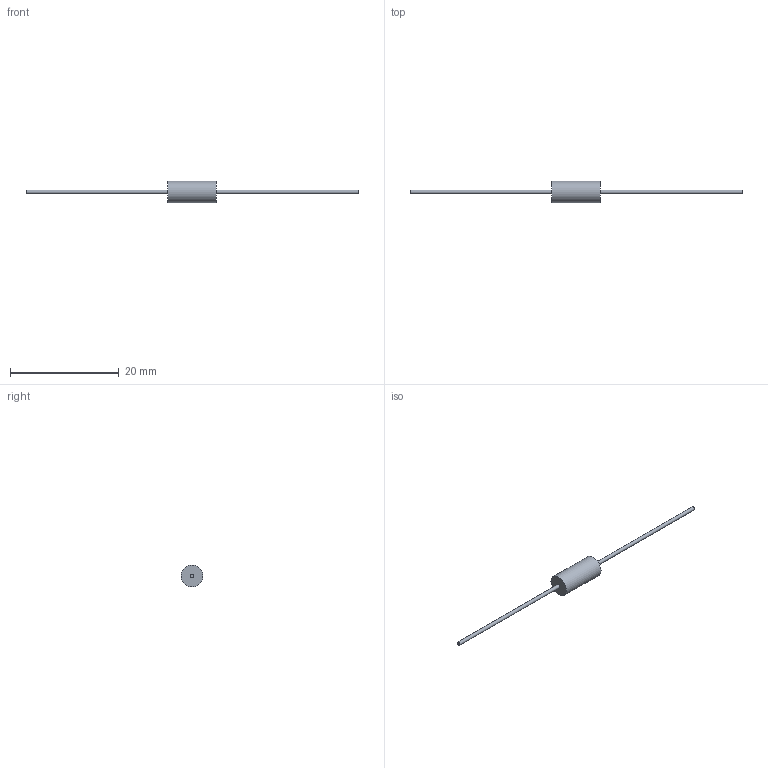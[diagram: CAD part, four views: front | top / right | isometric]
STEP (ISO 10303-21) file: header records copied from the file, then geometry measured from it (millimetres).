
FILE_DESCRIPTION(/* description */ (''),/* implementation_level */ '2;1');
FILE_NAME(/* name */ 'C:\Users\mulla\Documents\SEI Models\Inventor Files\MG_MGM\MGM1_stp.stp',/* time_stamp */ '2019-06-12T13:22:46-04:00',/* author */ ('mulla'),/* organization */ (''),/* preprocessor_version */ 'ST-DEVELOPER v16.1',/* originating_system */ 'Autodesk Inventor 2016',/* authorisation */ '');
FILE_SCHEMA (('AUTOMOTIVE_DESIGN { 1 0 10303 214 3 1 1 }'));
Length unit declared in the file: millimetre
Products named in the file (1): MGM1
Bounding box: 61 x 4 x 4 mm (x, y, z)
Volume: 130.4 mm3; surface area: 245.7 mm2
Topology: 3 solids, 3 shells, 9 faces, 9 edges, 6 vertices
Faces by surface type: plane 6, cylinder 3
Full cylindrical faces by diameter (mm): 0.65 x2, 4 x1
Entity records: 186 total; most frequent: DIRECTION 32, CARTESIAN_POINT 22, AXIS2_PLACEMENT_3D 16, EDGE_LOOP 12, ORIENTED_EDGE 12, FACE_OUTER_BOUND 9, ADVANCED_FACE 9, PLANE 6
